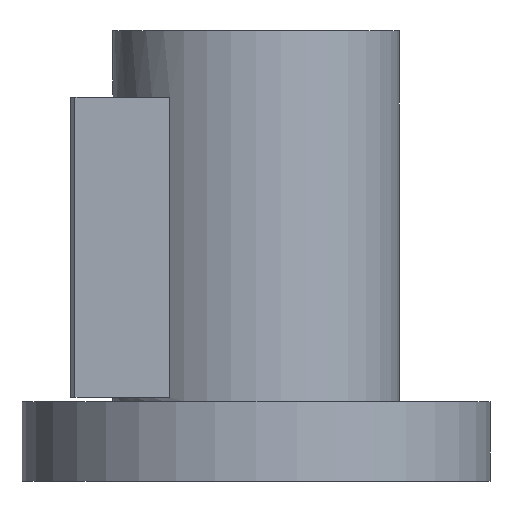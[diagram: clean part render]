
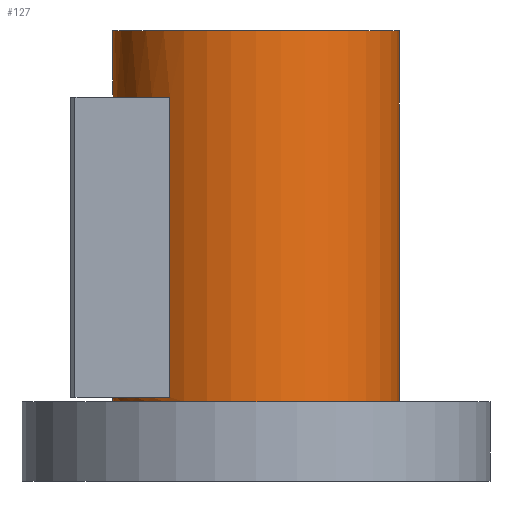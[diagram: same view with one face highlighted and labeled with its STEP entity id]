
A CAD part, front view. The second image highlights one B-rep face of the part: STEP entity #127.
In plain terms, the highlighted cylindrical face has radius 32.5 mm (diameter 65 mm), a full revolution.
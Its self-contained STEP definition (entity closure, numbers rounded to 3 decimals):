
#127=ADVANCED_FACE('',(#200,#201,#202),#155,.T.);
#155=CYLINDRICAL_SURFACE('',#508,32.5);
#168=LINE('',#698,#184);
#169=LINE('',#702,#185);
#184=VECTOR('',#568,1.);
#185=VECTOR('',#571,1.);
#200=FACE_BOUND('',#245,.T.);
#201=FACE_BOUND('',#246,.T.);
#202=FACE_BOUND('',#247,.T.);
#245=EDGE_LOOP('',(#305));
#246=EDGE_LOOP('',(#306));
#247=EDGE_LOOP('',(#307,#308,#309,#310));
#305=ORIENTED_EDGE('',*,*,#431,.F.);
#306=ORIENTED_EDGE('',*,*,#432,.T.);
#307=ORIENTED_EDGE('',*,*,#433,.F.);
#308=ORIENTED_EDGE('',*,*,#434,.F.);
#309=ORIENTED_EDGE('',*,*,#435,.T.);
#310=ORIENTED_EDGE('',*,*,#436,.F.);
#393=VERTEX_POINT('',#692);
#394=VERTEX_POINT('',#694);
#395=VERTEX_POINT('',#696);
#396=VERTEX_POINT('',#697);
#397=VERTEX_POINT('',#699);
#398=VERTEX_POINT('',#701);
#431=EDGE_CURVE('',#393,#393,#475,.T.);
#432=EDGE_CURVE('',#394,#394,#476,.T.);
#433=EDGE_CURVE('',#395,#396,#477,.T.);
#434=EDGE_CURVE('',#397,#395,#168,.T.);
#435=EDGE_CURVE('',#397,#398,#478,.T.);
#436=EDGE_CURVE('',#396,#398,#169,.T.);
#475=CIRCLE('',#504,32.5);
#476=CIRCLE('',#505,32.5);
#477=CIRCLE('',#506,32.5);
#478=CIRCLE('',#507,32.5);
#504=AXIS2_PLACEMENT_3D('',#691,#562,#563);
#505=AXIS2_PLACEMENT_3D('',#693,#564,#565);
#506=AXIS2_PLACEMENT_3D('',#695,#566,#567);
#507=AXIS2_PLACEMENT_3D('',#700,#569,#570);
#508=AXIS2_PLACEMENT_3D('',#703,#572,#573);
#562=DIRECTION('',(0.,0.,1.));
#563=DIRECTION('',(1.,0.,0.));
#564=DIRECTION('',(0.,0.,1.));
#565=DIRECTION('',(1.,0.,0.));
#566=DIRECTION('',(0.,0.,-1.));
#567=DIRECTION('',(-1.,0.,0.));
#568=DIRECTION('',(0.,0.,1.));
#569=DIRECTION('',(0.,0.,-1.));
#570=DIRECTION('',(-1.,0.,0.));
#571=DIRECTION('',(0.,0.,-1.));
#572=DIRECTION('',(0.,0.,-1.));
#573=DIRECTION('',(-1.,0.,0.));
#691=CARTESIAN_POINT('',(0.,0.,102.));
#692=CARTESIAN_POINT('',(32.5,0.,102.));
#693=CARTESIAN_POINT('',(0.,0.,18.));
#694=CARTESIAN_POINT('',(32.5,0.,18.));
#695=CARTESIAN_POINT('',(0.,0.,87.));
#696=CARTESIAN_POINT('',(-19.5,-26.,87.));
#697=CARTESIAN_POINT('',(-19.5,26.,87.));
#698=CARTESIAN_POINT('',(-19.5,-26.,102.));
#699=CARTESIAN_POINT('',(-19.5,-26.,19.));
#700=CARTESIAN_POINT('',(0.,0.,19.));
#701=CARTESIAN_POINT('',(-19.5,26.,19.));
#702=CARTESIAN_POINT('',(-19.5,26.,102.));
#703=CARTESIAN_POINT('',(0.,0.,102.));
